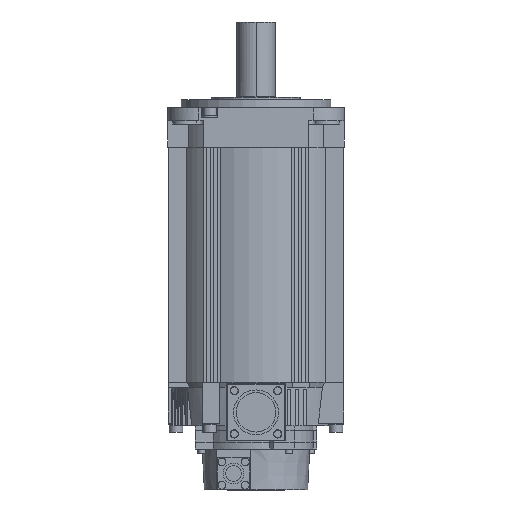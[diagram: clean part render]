
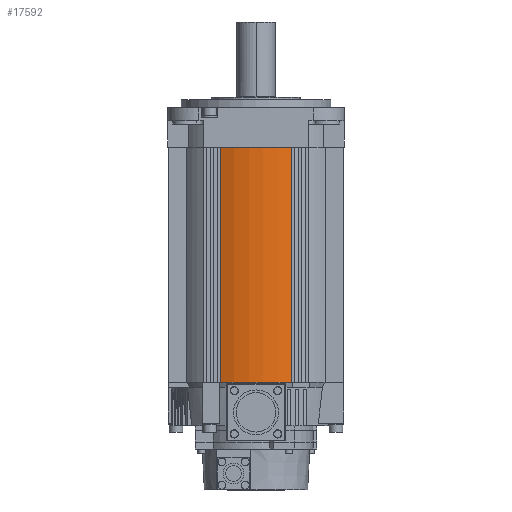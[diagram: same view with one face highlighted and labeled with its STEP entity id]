
A CAD part, front view. The second image highlights one B-rep face of the part: STEP entity #17592.
In plain terms, the highlighted cylindrical face has radius 64 mm (diameter 128 mm), a partial arc.
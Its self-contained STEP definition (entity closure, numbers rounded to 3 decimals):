
#2512 = CARTESIAN_POINT ( 'NONE',  ( -26.3, -58.346, -202. ) ) ;
#2562 = DIRECTION ( 'NONE',  ( 1., 0., 0. ) ) ;
#2563 = DIRECTION ( 'NONE',  ( 0., 0., -1. ) ) ;
#2564 = CARTESIAN_POINT ( 'NONE',  ( 0., 0., -202. ) ) ;
#2565 = AXIS2_PLACEMENT_3D ( 'NONE', #2564, #2563, #2562 ) ;
#2566 = CIRCLE ( 'NONE', #2565, 64. ) ;
#2733 = CARTESIAN_POINT ( 'NONE',  ( 26.3, -58.346, -202. ) ) ;
#6745 = DIRECTION ( 'NONE',  ( 1., 0., 0. ) ) ;
#6746 = DIRECTION ( 'NONE',  ( 0., 0., 1. ) ) ;
#6747 = CARTESIAN_POINT ( 'NONE',  ( 0., 0., -29. ) ) ;
#6748 = AXIS2_PLACEMENT_3D ( 'NONE', #6747, #6746, #6745 ) ;
#6749 = CIRCLE ( 'NONE', #6748, 64. ) ;
#6804 = CARTESIAN_POINT ( 'NONE',  ( 26.3, -58.346, -29. ) ) ;
#6813 = DIRECTION ( 'NONE',  ( 1., 0., 0. ) ) ;
#6814 = DIRECTION ( 'NONE',  ( 0., 0., 1. ) ) ;
#6815 = AXIS2_PLACEMENT_3D ( 'NONE', #6818, #6814, #6813 ) ;
#6816 = CYLINDRICAL_SURFACE ( 'NONE', #6815, 64. ) ;
#6818 = CARTESIAN_POINT ( 'NONE',  ( 0., 0., -383.019 ) ) ;
#6819 = FACE_OUTER_BOUND ( 'NONE', #17405, .T. ) ;
#6828 = DIRECTION ( 'NONE',  ( 0., 0., -1. ) ) ;
#6829 = VECTOR ( 'NONE', #6828, 1000. ) ;
#6830 = CARTESIAN_POINT ( 'NONE',  ( 26.3, -58.346, -383.019 ) ) ;
#6831 = LINE ( 'NONE', #6830, #6829 ) ;
#6833 = DIRECTION ( 'NONE',  ( 0., 0., 1. ) ) ;
#6834 = VECTOR ( 'NONE', #6833, 1000. ) ;
#6835 = CARTESIAN_POINT ( 'NONE',  ( -26.3, -58.346, -383.019 ) ) ;
#6836 = LINE ( 'NONE', #6835, #6834 ) ;
#6837 = CARTESIAN_POINT ( 'NONE',  ( -26.3, -58.346, -29. ) ) ;
#10514 = VERTEX_POINT ( 'NONE', #2512 ) ;
#10551 = EDGE_CURVE ( 'NONE', #10679, #10514, #2566, .T. ) ;
#10679 = VERTEX_POINT ( 'NONE', #2733 ) ;
#17393 = ORIENTED_EDGE ( 'NONE', *, *, #17576, .F. ) ;
#17405 = EDGE_LOOP ( 'NONE', ( #17393, #17566, #17577, #17552 ) ) ;
#17552 = ORIENTED_EDGE ( 'NONE', *, *, #17555, .F. ) ;
#17555 = EDGE_CURVE ( 'NONE', #17573, #17558, #6749, .T. ) ;
#17558 = VERTEX_POINT ( 'NONE', #6804 ) ;
#17566 = ORIENTED_EDGE ( 'NONE', *, *, #10551, .F. ) ;
#17573 = VERTEX_POINT ( 'NONE', #6837 ) ;
#17576 = EDGE_CURVE ( 'NONE', #10514, #17573, #6836, .T. ) ;
#17577 = ORIENTED_EDGE ( 'NONE', *, *, #17585, .F. ) ;
#17585 = EDGE_CURVE ( 'NONE', #17558, #10679, #6831, .T. ) ;
#17592 = ADVANCED_FACE ( 'NONE', ( #6819 ), #6816, .T. ) ;
